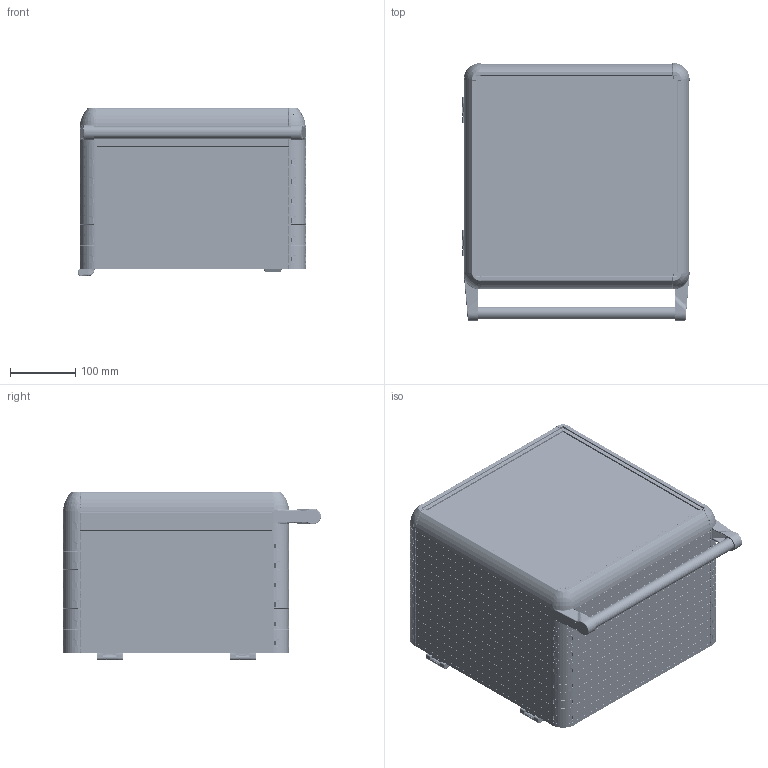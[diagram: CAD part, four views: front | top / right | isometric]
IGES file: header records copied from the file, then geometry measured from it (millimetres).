
Start section: SolidWorks IGES file using analytic representation for surfaces
Global section: file name: D:\PANO_STEP\1590\1590 datalar\1590-0104.IGS; native system: SolidWorks 2022; preprocessor: SolidWorks 2022; author: User; date: 220422.114651; units: millimetre
Bounding box: 349.03 x 395.81 x 258.47 mm (x, y, z)
Surface area: 2018219.6 mm2 (no closed solid volume)
Topology: 0 solids, 0 shells, 15973 faces, 126619 edges, 126261 vertices
Faces by surface type: bspline 10387, revolution 5586
